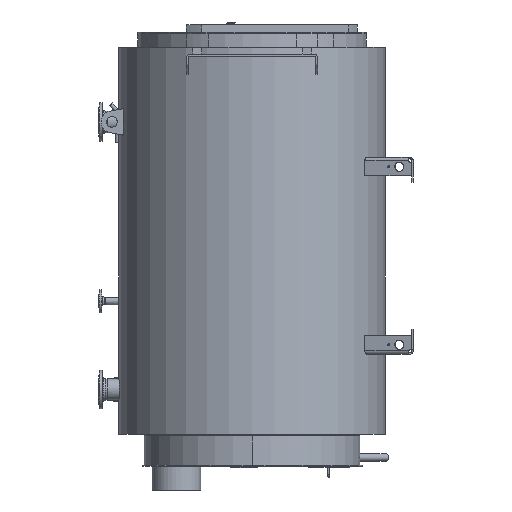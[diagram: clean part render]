
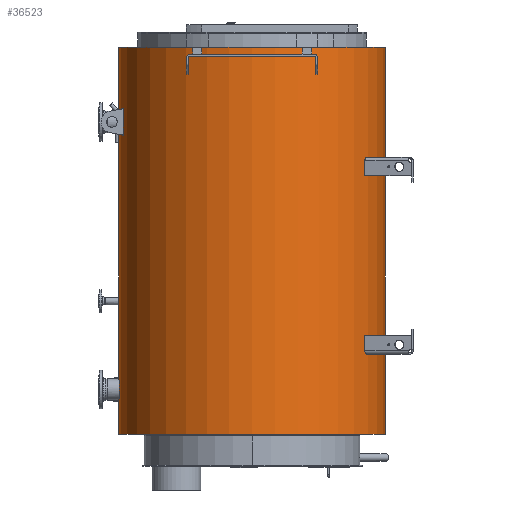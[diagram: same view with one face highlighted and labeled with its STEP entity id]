
A CAD part, left-side view. The second image highlights one B-rep face of the part: STEP entity #36523.
In plain terms, the highlighted cylindrical face has radius 862.5 mm (diameter 1725 mm), a full revolution.
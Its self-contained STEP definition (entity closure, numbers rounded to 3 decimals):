
#36438=CARTESIAN_POINT('',(862.5,-0.,-2313.));
#36439=VERTEX_POINT('',#36438);
#36440=CARTESIAN_POINT('',(0.,0.,-2313.));
#36441=DIRECTION('',(-0.,-0.,-1.));
#36442=DIRECTION('',(1.,0.,-0.));
#36443=AXIS2_PLACEMENT_3D('',#36440,#36441,#36442);
#36444=CIRCLE('',#36443,862.5);
#36445=EDGE_CURVE('',#36439,#36439,#36444,.T.);
#36466=CARTESIAN_POINT('',(862.5,-0.,192.));
#36467=VERTEX_POINT('',#36466);
#36468=CARTESIAN_POINT('',(0.,0.,192.));
#36469=DIRECTION('',(0.,0.,1.));
#36470=DIRECTION('',(1.,0.,-0.));
#36471=AXIS2_PLACEMENT_3D('',#36468,#36469,#36470);
#36472=CIRCLE('',#36471,862.5);
#36473=EDGE_CURVE('',#36467,#36467,#36472,.T.);
#36507=CARTESIAN_POINT('',(0.,0.,-2313.002));
#36508=DIRECTION('',(0.,0.,1.));
#36509=DIRECTION('',(1.,0.,-0.));
#36510=AXIS2_PLACEMENT_3D('',#36507,#36508,#36509);
#36511=CYLINDRICAL_SURFACE('',#36510,862.5);
#36512=CARTESIAN_POINT('',(862.5,0.,192.));
#36513=DIRECTION('',(-0.,-0.,-1.));
#36514=VECTOR('',#36513,2505.);
#36515=LINE('',#36512,#36514);
#36516=EDGE_CURVE('',#36467,#36439,#36515,.T.);
#36517=ORIENTED_EDGE('',*,*,#36516,.T.);
#36518=ORIENTED_EDGE('',*,*,#36445,.F.);
#36519=ORIENTED_EDGE('',*,*,#36516,.F.);
#36520=ORIENTED_EDGE('',*,*,#36473,.F.);
#36521=EDGE_LOOP('',(#36517,#36518,#36519,#36520));
#36522=FACE_BOUND('',#36521,.T.);
#36523=ADVANCED_FACE('',(#36522),#36511,.T.);
